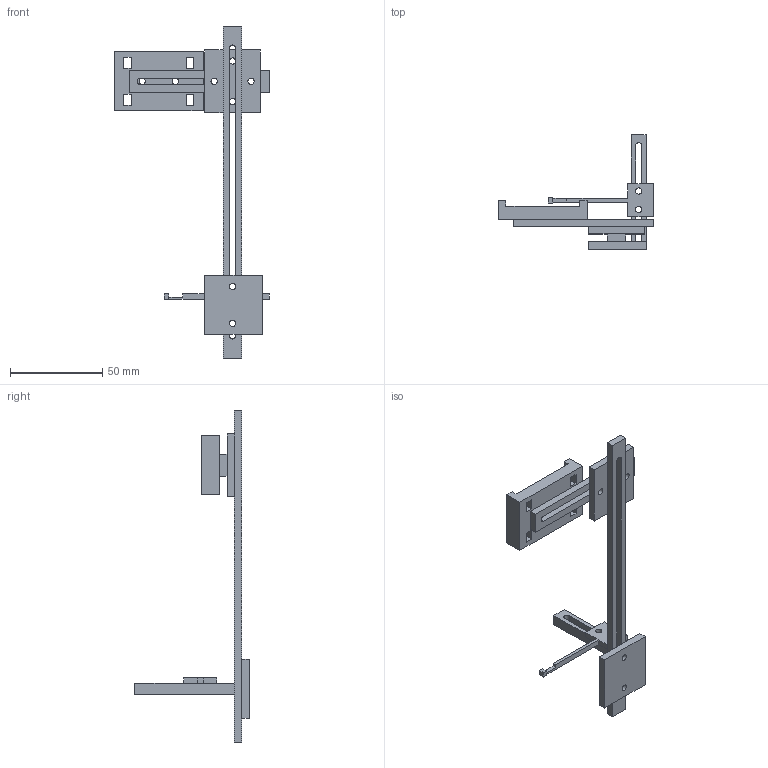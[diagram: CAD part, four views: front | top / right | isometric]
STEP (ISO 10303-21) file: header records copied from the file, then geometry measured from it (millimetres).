
FILE_DESCRIPTION(('Open CASCADE Model'),'2;1');
FILE_NAME('Open CASCADE Shape Model','2026-11-08T04:10:22',('Author'),( 'Open CASCADE'),'Open CASCADE STEP processor 7.8','Open CASCADE 7.8' ,'Unknown');
FILE_SCHEMA(('AUTOMOTIVE_DESIGN { 1 0 10303 214 1 1 1 1 }'));
Length unit declared in the file: millimetre
Products named in the file (7): moving_marker_holder; strap_mount; horizontal_bar; corner; vertical_rail; depth_carriage; target_arm
Assembly tree (6 placements, depth 2):
  moving_marker_holder
    strap_mount
    horizontal_bar
    corner
    vertical_rail
    depth_carriage
    target_arm
Bounding box: 84 x 62 x 180 mm (x, y, z)
Volume: 28834.9 mm3; surface area: 21417.6 mm2
Topology: 6 solids, 6 shells, 108 faces, 284 edges, 188 vertices
Faces by surface type: plane 92, cylinder 16
Full cylindrical faces by diameter (mm): 3.4 x10
Entity records: 7216 total; most frequent: CARTESIAN_POINT 1167, DIRECTION 1112, LINE 788, VECTOR 788, ORIENTED_EDGE 568, PCURVE 568, DEFINITIONAL_REPRESENTATION 568, EDGE_CURVE 284
